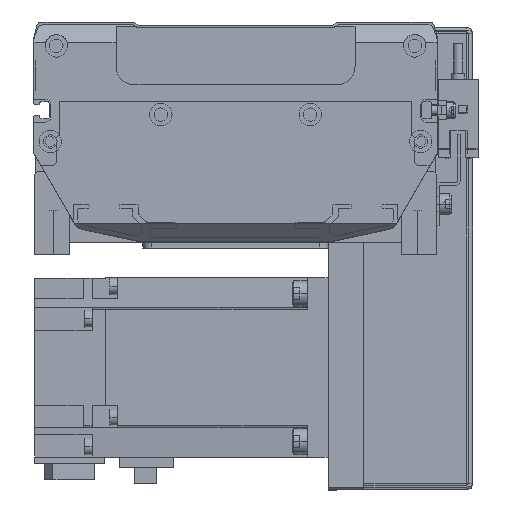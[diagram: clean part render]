
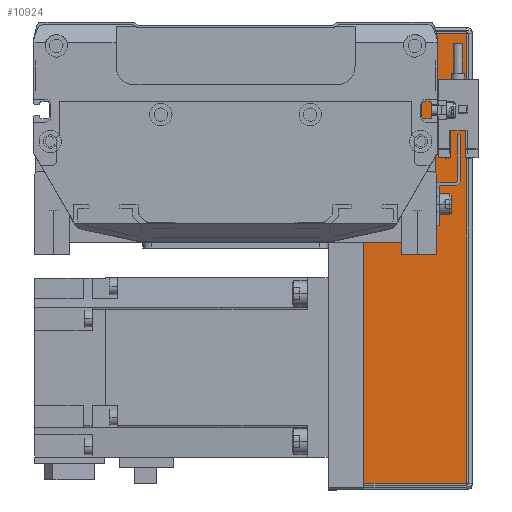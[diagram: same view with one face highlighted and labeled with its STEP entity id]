
A CAD part, front view. The second image highlights one B-rep face of the part: STEP entity #10924.
In plain terms, the highlighted planar face has unit normal (0, -1, 0).
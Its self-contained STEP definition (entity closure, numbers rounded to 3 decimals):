
#1087 = VERTEX_POINT ( 'NONE', #42758 ) ;
#1237 = EDGE_CURVE ( 'NONE', #1087, #15437, #26141, .T. ) ;
#2168 = DIRECTION ( 'NONE',  ( 0., 0., -1. ) ) ;
#3737 = LINE ( 'NONE', #34073, #39549 ) ;
#4086 = DIRECTION ( 'NONE',  ( 1., 0., 0. ) ) ;
#4822 = EDGE_CURVE ( 'NONE', #7209, #43025, #3737, .T. ) ;
#5707 = CARTESIAN_POINT ( 'NONE',  ( 115.793, -37., 0. ) ) ;
#6420 = DIRECTION ( 'NONE',  ( 0., 0., -1. ) ) ;
#7209 = VERTEX_POINT ( 'NONE', #24608 ) ;
#10171 = LINE ( 'NONE', #29231, #37588 ) ;
#10822 = DIRECTION ( 'NONE',  ( 1., 0., 0. ) ) ;
#10924 = ADVANCED_FACE ( 'NONE', ( #33902 ), #15968, .F. ) ;
#12146 = DIRECTION ( 'NONE',  ( 0., 1., 0. ) ) ;
#13089 = ORIENTED_EDGE ( 'NONE', *, *, #4822, .T. ) ;
#14332 = EDGE_LOOP ( 'NONE', ( #29661, #26166, #14555, #13089 ) ) ;
#14555 = ORIENTED_EDGE ( 'NONE', *, *, #15274, .T. ) ;
#15274 = EDGE_CURVE ( 'NONE', #1087, #7209, #10171, .T. ) ;
#15437 = VERTEX_POINT ( 'NONE', #42476 ) ;
#15676 = DIRECTION ( 'NONE',  ( 0., 0., 1. ) ) ;
#15809 = CARTESIAN_POINT ( 'NONE',  ( -162.166, -37., 36.5 ) ) ;
#15968 = PLANE ( 'NONE',  #29100 ) ;
#17216 = VECTOR ( 'NONE', #10822, 1000. ) ;
#21086 = CARTESIAN_POINT ( 'NONE',  ( 118., -37., 34.263 ) ) ;
#22138 = VECTOR ( 'NONE', #6420, 1000. ) ;
#24608 = CARTESIAN_POINT ( 'NONE',  ( -34.793, -37., 0. ) ) ;
#26141 = LINE ( 'NONE', #21086, #17216 ) ;
#26166 = ORIENTED_EDGE ( 'NONE', *, *, #1237, .F. ) ;
#29100 = AXIS2_PLACEMENT_3D ( 'NONE', #15809, #12146, #15676 ) ;
#29231 = CARTESIAN_POINT ( 'NONE',  ( -34.793, -37., 36.5 ) ) ;
#29661 = ORIENTED_EDGE ( 'NONE', *, *, #29738, .F. ) ;
#29738 = EDGE_CURVE ( 'NONE', #15437, #43025, #42191, .T. ) ;
#33902 = FACE_OUTER_BOUND ( 'NONE', #14332, .T. ) ;
#34073 = CARTESIAN_POINT ( 'NONE',  ( -162.166, -37., 0. ) ) ;
#37588 = VECTOR ( 'NONE', #2168, 1000. ) ;
#39549 = VECTOR ( 'NONE', #4086, 1000. ) ;
#42191 = LINE ( 'NONE', #43346, #22138 ) ;
#42476 = CARTESIAN_POINT ( 'NONE',  ( 115.793, -37., 34.263 ) ) ;
#42758 = CARTESIAN_POINT ( 'NONE',  ( -34.793, -37., 34.263 ) ) ;
#43025 = VERTEX_POINT ( 'NONE', #5707 ) ;
#43346 = CARTESIAN_POINT ( 'NONE',  ( 115.793, -37., 35. ) ) ;
